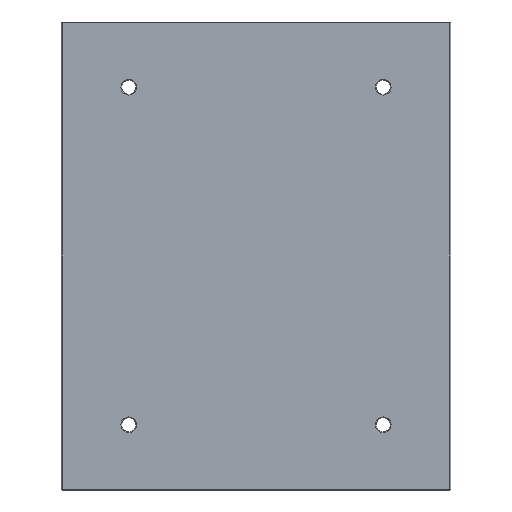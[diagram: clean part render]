
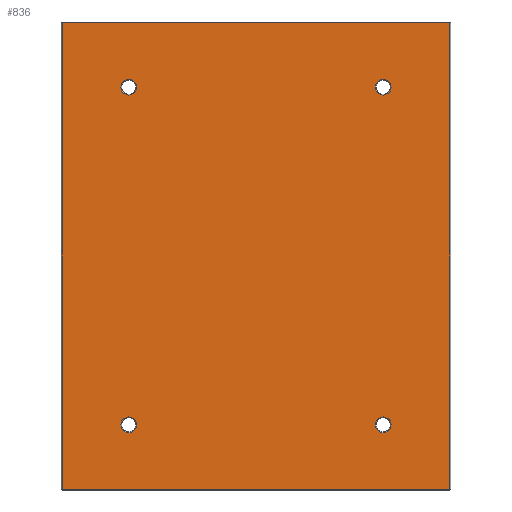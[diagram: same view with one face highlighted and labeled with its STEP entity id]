
A CAD part, front view. The second image highlights one B-rep face of the part: STEP entity #836.
In plain terms, the highlighted planar face has unit normal (0, -1, 0).
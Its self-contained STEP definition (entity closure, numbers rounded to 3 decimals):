
#24 = EDGE_LOOP ( 'NONE', ( #366, #554 ) ) ;
#26 = DIRECTION ( 'NONE',  ( 0., 0., 1. ) ) ;
#39 = CARTESIAN_POINT ( 'NONE',  ( 162., 0., 215. ) ) ;
#46 = DIRECTION ( 'NONE',  ( 0., 1., 0. ) ) ;
#51 = CARTESIAN_POINT ( 'NONE',  ( -247., 0., 0. ) ) ;
#58 = VERTEX_POINT ( 'NONE', #1569 ) ;
#59 = EDGE_CURVE ( 'NONE', #58, #812, #276, .T. ) ;
#69 = FACE_BOUND ( 'NONE', #891, .T. ) ;
#70 = EDGE_CURVE ( 'NONE', #933, #1468, #625, .T. ) ;
#75 = PLANE ( 'NONE',  #1310 ) ;
#77 = DIRECTION ( 'NONE',  ( 0., 0., -1. ) ) ;
#104 = EDGE_CURVE ( 'NONE', #812, #58, #1224, .T. ) ;
#154 = EDGE_LOOP ( 'NONE', ( #1156, #1447, #491, #1394 ) ) ;
#183 = CIRCLE ( 'NONE', #1453, 10. ) ;
#228 = LINE ( 'NONE', #470, #1552 ) ;
#241 = CARTESIAN_POINT ( 'NONE',  ( -162., 0., 215. ) ) ;
#248 = EDGE_CURVE ( 'NONE', #1087, #837, #1106, .T. ) ;
#264 = ORIENTED_EDGE ( 'NONE', *, *, #976, .T. ) ;
#276 = CIRCLE ( 'NONE', #1263, 10. ) ;
#309 = CIRCLE ( 'NONE', #1216, 10. ) ;
#331 = EDGE_LOOP ( 'NONE', ( #822, #264 ) ) ;
#341 = VECTOR ( 'NONE', #921, 1000. ) ;
#364 = VERTEX_POINT ( 'NONE', #1278 ) ;
#366 = ORIENTED_EDGE ( 'NONE', *, *, #1319, .T. ) ;
#410 = CARTESIAN_POINT ( 'NONE',  ( 162., 0., 225. ) ) ;
#415 = EDGE_CURVE ( 'NONE', #668, #877, #890, .T. ) ;
#423 = FACE_BOUND ( 'NONE', #331, .T. ) ;
#425 = LINE ( 'NONE', #927, #341 ) ;
#441 = DIRECTION ( 'NONE',  ( -1., 0., 0. ) ) ;
#464 = FACE_BOUND ( 'NONE', #1586, .T. ) ;
#470 = CARTESIAN_POINT ( 'NONE',  ( 0., 0., 297. ) ) ;
#491 = ORIENTED_EDGE ( 'NONE', *, *, #1655, .T. ) ;
#522 = EDGE_CURVE ( 'NONE', #968, #668, #425, .T. ) ;
#554 = ORIENTED_EDGE ( 'NONE', *, *, #248, .T. ) ;
#625 = CIRCLE ( 'NONE', #1350, 10. ) ;
#664 = DIRECTION ( 'NONE',  ( 0., 0., 1. ) ) ;
#668 = VERTEX_POINT ( 'NONE', #1302 ) ;
#693 = DIRECTION ( 'NONE',  ( 0., 1., 0. ) ) ;
#695 = CIRCLE ( 'NONE', #1303, 10. ) ;
#704 = CARTESIAN_POINT ( 'NONE',  ( -162., 0., -225. ) ) ;
#709 = CARTESIAN_POINT ( 'NONE',  ( 162., 0., -215. ) ) ;
#720 = CARTESIAN_POINT ( 'NONE',  ( -162., 0., -215. ) ) ;
#753 = VERTEX_POINT ( 'NONE', #1608 ) ;
#781 = DIRECTION ( 'NONE',  ( 0., 0., 1. ) ) ;
#799 = DIRECTION ( 'NONE',  ( 0., 1., 0. ) ) ;
#812 = VERTEX_POINT ( 'NONE', #704 ) ;
#819 = ORIENTED_EDGE ( 'NONE', *, *, #70, .T. ) ;
#822 = ORIENTED_EDGE ( 'NONE', *, *, #1422, .T. ) ;
#827 = DIRECTION ( 'NONE',  ( 0., 0., 1. ) ) ;
#831 = DIRECTION ( 'NONE',  ( 0., 1., 0. ) ) ;
#832 = DIRECTION ( 'NONE',  ( 0., 1., 0. ) ) ;
#836 = ADVANCED_FACE ( 'NONE', ( #423, #1406, #464, #69, #1066 ), #75, .F. ) ;
#837 = VERTEX_POINT ( 'NONE', #1367 ) ;
#840 = CARTESIAN_POINT ( 'NONE',  ( -162., 0., 215. ) ) ;
#843 = DIRECTION ( 'NONE',  ( 0., 0., 1. ) ) ;
#862 = DIRECTION ( 'NONE',  ( 0., 1., 0. ) ) ;
#877 = VERTEX_POINT ( 'NONE', #1072 ) ;
#890 = LINE ( 'NONE', #1626, #1225 ) ;
#891 = EDGE_LOOP ( 'NONE', ( #1502, #1315 ) ) ;
#901 = CARTESIAN_POINT ( 'NONE',  ( -162., 0., -215. ) ) ;
#921 = DIRECTION ( 'NONE',  ( 1., 0., 0. ) ) ;
#927 = CARTESIAN_POINT ( 'NONE',  ( 0., 0., -297. ) ) ;
#933 = VERTEX_POINT ( 'NONE', #1356 ) ;
#940 = CARTESIAN_POINT ( 'NONE',  ( 162., 0., 215. ) ) ;
#968 = VERTEX_POINT ( 'NONE', #1221 ) ;
#976 = EDGE_CURVE ( 'NONE', #753, #364, #183, .T. ) ;
#1038 = DIRECTION ( 'NONE',  ( 0., 1., 0. ) ) ;
#1066 = FACE_OUTER_BOUND ( 'NONE', #154, .T. ) ;
#1072 = CARTESIAN_POINT ( 'NONE',  ( 247., 0., 297. ) ) ;
#1084 = CARTESIAN_POINT ( 'NONE',  ( -247., 0., 297. ) ) ;
#1087 = VERTEX_POINT ( 'NONE', #410 ) ;
#1106 = CIRCLE ( 'NONE', #1599, 10. ) ;
#1121 = DIRECTION ( 'NONE',  ( 0., 0., 1. ) ) ;
#1156 = ORIENTED_EDGE ( 'NONE', *, *, #415, .T. ) ;
#1216 = AXIS2_PLACEMENT_3D ( 'NONE', #241, #1519, #1505 ) ;
#1221 = CARTESIAN_POINT ( 'NONE',  ( -247., 0., -297. ) ) ;
#1224 = CIRCLE ( 'NONE', #1437, 10. ) ;
#1225 = VECTOR ( 'NONE', #1622, 1000. ) ;
#1252 = ORIENTED_EDGE ( 'NONE', *, *, #1371, .T. ) ;
#1263 = AXIS2_PLACEMENT_3D ( 'NONE', #901, #862, #1446 ) ;
#1278 = CARTESIAN_POINT ( 'NONE',  ( 162., 0., -225. ) ) ;
#1302 = CARTESIAN_POINT ( 'NONE',  ( 247., 0., -297. ) ) ;
#1303 = AXIS2_PLACEMENT_3D ( 'NONE', #940, #1038, #1121 ) ;
#1310 = AXIS2_PLACEMENT_3D ( 'NONE', #1485, #799, #781 ) ;
#1315 = ORIENTED_EDGE ( 'NONE', *, *, #59, .T. ) ;
#1319 = EDGE_CURVE ( 'NONE', #837, #1087, #695, .T. ) ;
#1323 = VECTOR ( 'NONE', #77, 1000. ) ;
#1350 = AXIS2_PLACEMENT_3D ( 'NONE', #840, #832, #827 ) ;
#1356 = CARTESIAN_POINT ( 'NONE',  ( -162., 0., 205. ) ) ;
#1367 = CARTESIAN_POINT ( 'NONE',  ( 162., 0., 205. ) ) ;
#1371 = EDGE_CURVE ( 'NONE', #1468, #933, #309, .T. ) ;
#1387 = DIRECTION ( 'NONE',  ( 0., 0., 1. ) ) ;
#1394 = ORIENTED_EDGE ( 'NONE', *, *, #522, .T. ) ;
#1406 = FACE_BOUND ( 'NONE', #24, .T. ) ;
#1416 = EDGE_CURVE ( 'NONE', #877, #1624, #228, .T. ) ;
#1422 = EDGE_CURVE ( 'NONE', #364, #753, #1589, .T. ) ;
#1437 = AXIS2_PLACEMENT_3D ( 'NONE', #720, #693, #664 ) ;
#1446 = DIRECTION ( 'NONE',  ( 0., 0., 1. ) ) ;
#1447 = ORIENTED_EDGE ( 'NONE', *, *, #1416, .T. ) ;
#1453 = AXIS2_PLACEMENT_3D ( 'NONE', #709, #1575, #1387 ) ;
#1468 = VERTEX_POINT ( 'NONE', #1646 ) ;
#1470 = AXIS2_PLACEMENT_3D ( 'NONE', #1488, #831, #843 ) ;
#1485 = CARTESIAN_POINT ( 'NONE',  ( 0., 0., 0. ) ) ;
#1488 = CARTESIAN_POINT ( 'NONE',  ( 162., 0., -215. ) ) ;
#1502 = ORIENTED_EDGE ( 'NONE', *, *, #104, .T. ) ;
#1505 = DIRECTION ( 'NONE',  ( 0., 0., 1. ) ) ;
#1519 = DIRECTION ( 'NONE',  ( 0., 1., 0. ) ) ;
#1552 = VECTOR ( 'NONE', #441, 1000. ) ;
#1569 = CARTESIAN_POINT ( 'NONE',  ( -162., 0., -205. ) ) ;
#1575 = DIRECTION ( 'NONE',  ( 0., 1., 0. ) ) ;
#1586 = EDGE_LOOP ( 'NONE', ( #819, #1252 ) ) ;
#1589 = CIRCLE ( 'NONE', #1470, 10. ) ;
#1599 = AXIS2_PLACEMENT_3D ( 'NONE', #39, #46, #26 ) ;
#1608 = CARTESIAN_POINT ( 'NONE',  ( 162., 0., -205. ) ) ;
#1622 = DIRECTION ( 'NONE',  ( 0., 0., 1. ) ) ;
#1624 = VERTEX_POINT ( 'NONE', #1084 ) ;
#1626 = CARTESIAN_POINT ( 'NONE',  ( 247., 0., 0. ) ) ;
#1642 = LINE ( 'NONE', #51, #1323 ) ;
#1646 = CARTESIAN_POINT ( 'NONE',  ( -162., 0., 225. ) ) ;
#1655 = EDGE_CURVE ( 'NONE', #1624, #968, #1642, .T. ) ;
